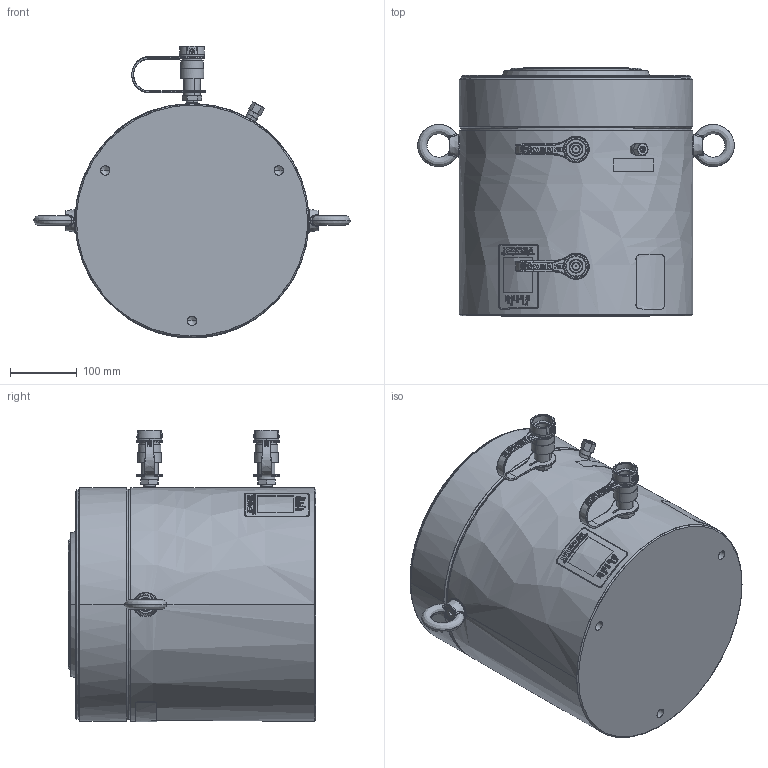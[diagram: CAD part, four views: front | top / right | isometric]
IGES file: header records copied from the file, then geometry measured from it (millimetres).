
Start section:  PTC IGES file: hcr4004.igs
Global section: file name: hcr4004.igs; native system: Creo Parametric by PTC Inc.; preprocessor: 2015290; author: Akhilesh.Subrahmanya; organization: Unknown; date: 20170626.160344; units: millimetre
Bounding box: 473.89 x 371 x 437.01 mm (x, y, z)
Surface area: 850639.4 mm2 (no closed solid volume)
Topology: 0 solids, 0 shells, 822 faces, 7150 edges, 7138 vertices
Faces by surface type: revolution 471, bspline 340, extrusion 11
